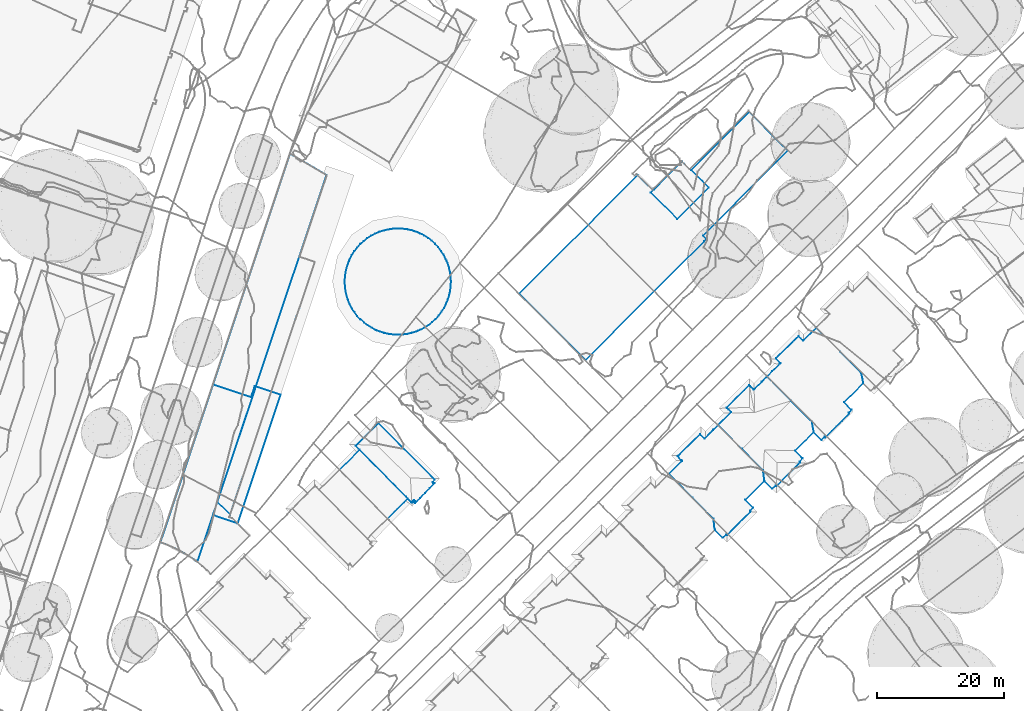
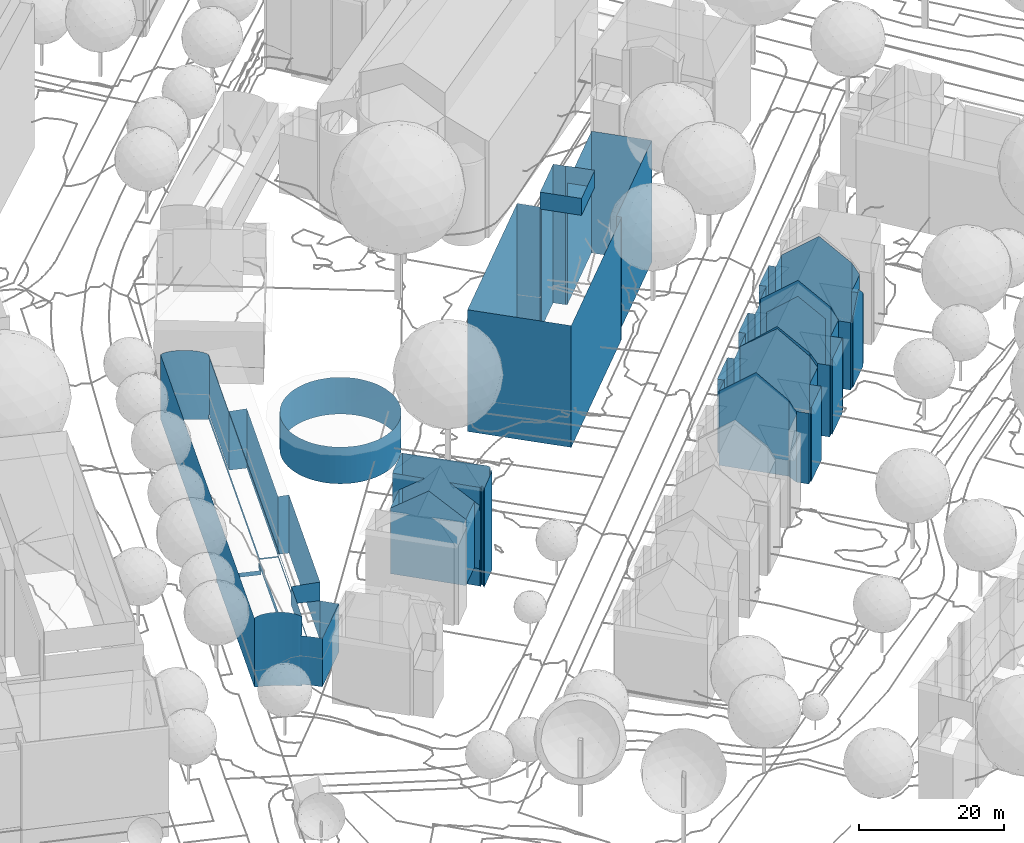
# Not in any storey, part 23 of 494: 7 walls.
"""IFC2X3 model written with IfcOpenShell, lengths in metres."""

from ifc_helpers import new_model, si_unit, frame, origin_with_axes, place, context, subcontext, project, faceted_brep, element, save


model = new_model("IFC2X3")

# Units and contexts
model_context = context("Model", 3, precision=1e-05, world=origin_with_axes())
body_context = subcontext(model_context, "Body", "Model", "MODEL_VIEW")
ifc_project = project(units=[si_unit("AREAUNIT", "SQUARE_METRE"), si_unit("LENGTHUNIT", "METRE")], contexts=[model_context])

# Walls
wall_1_placement = place(None, frame((129.1307320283, 172.8855160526, 527.2133), z_axis=(0.0, 0.0, 1.0), x_axis=(1.0, 0.0, 0.0)))
element("IfcWall", 1, at=wall_1_placement, Name="Wall 0", context=body_context, shape_type="Brep", body=[
    faceted_brep([(26.9079999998, 19.6407000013, 23.3617), (26.9489999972, 19.6816999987, 23.3617), (26.9079999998, 19.6407000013, 0.0), (25.682, 20.875, 23.3617), (25.682, 20.875, 0.0), (20.7619999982, 15.9501999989, 23.3617), (21.2709999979, 16.4589999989, 20.498), (20.7619999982, 15.9501999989, 20.498), (21.2709999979, 16.4589999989, 0.0), (24.9499999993, 11.7657000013, 23.3617), (24.9499999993, 11.7657000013, 20.498), (29.9069999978, 16.7265999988, 23.3617), (29.9069999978, 16.7265999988, 20.498), (26.9489999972, 19.6816999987, 0.0), (27.1359999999, 19.4952000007, 20.498), (27.1359999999, 19.4952000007, 0.0), (21.0179999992, 16.3916999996, 20.498), (21.1789999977, 16.5507999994, 20.498), (21.0179999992, 16.3916999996, 0.0), (18.7049999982, 18.7236999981, 20.498), (18.7049999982, 18.7236999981, 0.0), (0.0, 0.0, 20.498), (0.0, 0.0, 0.0), (10.4670000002, -10.4569999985, 20.498), (10.4670000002, -10.4569999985, 0.0), (29.1589999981, 8.2520000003, 20.498), (29.1589999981, 8.2520000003, 0.0), (29.1419999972, 8.2696000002, 20.498), (29.1419999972, 8.2696000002, 0.0), (29.5369999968, 8.6513999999, 20.498), (29.5369999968, 8.6513999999, 0.0), (29.0059999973, 9.183600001, 20.498), (29.0059999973, 9.183600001, 0.0), (42.3549999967, 22.5430000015, 20.498), (42.3549999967, 22.5430000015, 0.0), (36.2619999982, 28.6290000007, 20.498), (36.2619999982, 28.6290000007, 0.0), (21.1789999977, 16.5507999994, 0.0)], [[[0, 1, 2]], [[3, 0, 4]], [[5, 6, 7]], [[6, 5, 3]], [[6, 4, 8]], [[4, 6, 3]], [[9, 5, 10]], [[11, 9, 12]], [[13, 14, 15]], [[14, 13, 1]], [[14, 11, 12]], [[11, 14, 1]], [[16, 17, 18]], [[19, 16, 20]], [[21, 19, 22]], [[23, 21, 24]], [[25, 23, 26]], [[27, 25, 28]], [[29, 27, 30]], [[31, 29, 32]], [[33, 31, 34]], [[35, 33, 36]], [[14, 35, 15]], [[17, 6, 37]], [[1, 13, 2]], [[0, 2, 4]], [[5, 7, 10]], [[9, 10, 12]], [[17, 37, 18]], [[16, 18, 20]], [[19, 20, 22]], [[21, 22, 24]], [[23, 24, 26]], [[25, 26, 28]], [[27, 28, 30]], [[29, 30, 32]], [[31, 32, 34]], [[33, 34, 36]], [[35, 36, 15]], [[6, 8, 37]]]),
])
wall_2_placement = place(None, frame((168.236732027, 159.8387160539, 531.4768), z_axis=(0.0, 0.0, 1.0), x_axis=(1.0, 0.0, 0.0)))
element("IfcWall", 2, at=wall_2_placement, Name="Wall 0", context=body_context, shape_type="Brep", body=[
    faceted_brep([(12.5319999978, -6.2891000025, 1.9428), (12.1099999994, -6.7080000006, 13.4237), (11.4100000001, -7.4043000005, 0.0), (12.9759999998, -5.8487000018, 0.0), (12.9759999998, -5.8487000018, 12.3158), (13.3440000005, -5.2735000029, 11.7109), (13.1799999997, -5.4356000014, 11.9209), (13.3440000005, -5.2735000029, 0.0), (12.8709999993, -5.7432000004, 0.0), (12.8709999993, -5.7432000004, 12.3158), (12.1510000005, -4.0655000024, 11.7109), (12.1510000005, -4.0655000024, 0.0), (15.1840000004, -1.0703000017, 11.7109), (15.1840000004, -1.0703000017, 0.0), (14.8770000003, 0.5409999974, 12.7678), (14.8770000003, 0.5409999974, 0.0), (9.1860000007, -9.6123000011, 11.9878), (9.0819999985, -9.505900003, 0.0), (9.1860000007, -9.6123000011, 0.0), (9.4199999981, -9.3789000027, 12.2898), (9.4109999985, -9.3877000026, 0.0), (11.2010000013, -7.6114000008, 14.5876), (10.6479999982, -8.1601999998, 13.8747), (10.362999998, -8.443400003, 3.9336), (7.3669999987, -8.7871000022, 0.0), (8.574000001, -10.009800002, 11.3339), (7.3669999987, -8.7871000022, 11.3339), (8.574000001, -10.009800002, 0.0), (9.0819999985, -9.505900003, 11.9888), (7.0720000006, -7.1641000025, 0.0), (7.0720000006, -7.1641000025, 12.7678), (3.7619999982, -3.8115000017, 0.0), (11.5669999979, 3.8954999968, 16.4254), (11.5669999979, 3.8954999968, 0.0), (7.7809999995, 7.7303999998, 12.2278), (7.7809999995, 7.7303999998, 0.0), (5.7540000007, 5.7167999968, 12.2338), (5.7349999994, 5.6981999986, 0.0), (5.688000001, 5.6512999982, 12.3088), (5.7309999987, 5.6942999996, 12.2608), (5.688000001, 5.6512999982, 0.0), (5.2509999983, 6.0907999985, 5.3855), (4.9890000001, 6.3553999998, 12.3108), (4.9710000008, 6.3729999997, 0.0), (1.3990000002, 2.873999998, 0.0), (1.3990000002, 2.873999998, 12.2748), (2.2919999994, 3.748999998, 12.2788), (4.0779999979, 5.4979999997, 12.2868), (4.9710000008, 6.3729999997, 12.2908), (1.4529999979, 2.8192999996, 0.0), (1.4600000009, 2.8125, 12.3448), (2.1400000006, 2.1268999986, 0.0), (2.1400000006, 2.1268999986, 12.3628), (2.0590000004, 2.0458999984, 12.2768), (2.0579999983, 2.0449000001, 0.0), (2.0170000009, 2.0048999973, 0.0), (0.824000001, 0.8192999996, 0.0), (0.8209999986, 0.816399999, 12.2508), (2.0159999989, 2.003899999, 12.2308), (3.7619999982, -3.8115999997, 16.4254), (0.0, 0.0, 12.2538), (0.0, 0.0, 0.0)], [[[0, 1, 2]], [[3, 4, 1]], [[3, 0, 2]], [[5, 6, 7]], [[7, 6, 8]], [[6, 9, 8]], [[10, 7, 11]], [[7, 10, 5]], [[12, 10, 13]], [[14, 12, 15]], [[16, 17, 18]], [[19, 16, 18]], [[20, 19, 18]], [[21, 22, 2]], [[23, 22, 19]], [[20, 23, 19]], [[23, 20, 2]], [[24, 25, 26]], [[24, 27, 25]], [[25, 17, 28]], [[25, 27, 17]], [[26, 29, 24]], [[30, 31, 29]], [[32, 14, 33]], [[34, 33, 35]], [[36, 34, 37]], [[38, 39, 40]], [[41, 38, 40]], [[42, 41, 43]], [[41, 40, 43]], [[44, 45, 46]], [[46, 47, 44]], [[43, 44, 47]], [[43, 47, 48]], [[49, 50, 44]], [[43, 48, 42]], [[50, 51, 52]], [[50, 49, 51]], [[52, 51, 53]], [[53, 51, 54]], [[53, 54, 55]], [[56, 57, 58]], [[53, 55, 58]], [[58, 55, 56]], [[59, 60, 31]], [[57, 56, 61]], [[60, 57, 61]], [[1, 21, 2]], [[1, 0, 3]], [[9, 4, 8]], [[4, 3, 8]], [[10, 11, 13]], [[12, 13, 15]], [[17, 16, 28]], [[22, 23, 2]], [[30, 29, 26]], [[59, 31, 30]], [[14, 15, 33]], [[32, 33, 34]], [[34, 35, 37]], [[40, 39, 36]], [[37, 40, 36]], [[41, 42, 38]], [[45, 44, 50]], [[60, 61, 31]]]),
])
wall_3_placement = place(None, frame((152.792732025, 144.4969160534, 530.4589), z_axis=(0.0, 0.0, 1.0), x_axis=(1.0, 0.0, 0.0)))
element("IfcWall", 3, at=wall_3_placement, Name="Wall 0", context=body_context, shape_type="Brep", body=[
    faceted_brep([(11.4990000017, 3.9199000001, 16.6064), (14.8100000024, 0.5673999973, 12.7558), (11.4990000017, 3.9199000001, 0.0), (2.0360000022, 2.0214999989, 0.0), (2.0360000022, 2.0214999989, 12.4898), (1.9750000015, 2.0830000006, 12.4228), (1.9360000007, 2.1219999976, 12.3788), (1.9040000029, 2.1543000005, 0.0), (0.0, 0.0, 12.4958), (0.0, 0.0, 0.0), (3.7160000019, -3.7655999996, 16.6064), (3.7160000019, -3.7655999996, 0.0), (15.0250000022, -1.134800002, 11.9018), (11.9930000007, -4.1270000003, 0.0), (15.0250000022, -1.134800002, 0.0), (14.8100000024, 0.5673999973, 0.0), (13.2320000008, -5.3819000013, 11.9018), (12.7850000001, -5.8262000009, 0.0), (13.2320000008, -5.3819000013, 0.0), (12.7850000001, -5.8262000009, 12.3778), (11.9930000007, -4.1270000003, 11.9018), (12.7750000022, -6.0459000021, 12.4998), (12.8900000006, -5.9326000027, 0.0), (12.8900000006, -5.9326000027, 12.3778), (9.1120000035, -9.6865000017, 12.4878), (9.0870000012, -9.7109999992, 0.0), (9.3020000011, -9.4970999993, 0.0), (12.7840000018, -6.0371000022, 0.0), (1.4580000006, 2.8759999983, 12.5208), (1.3220000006, 2.7412, 0.0), (1.3220000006, 2.7412, 12.3768), (1.4649999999, 2.8827999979, 0.0), (1.5400000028, 2.5205000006, 12.3768), (5.7410000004, 5.7020999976, 12.4768), (6.9240000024, 6.8779000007, 12.5478), (5.5789999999, 5.5409999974, 0.0), (6.9670000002, 6.9208999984, 0.0), (7.314000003, 7.2655999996, 12.5508), (7.7600000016, 7.7080000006, 0.0), (7.7600000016, 7.7080000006, 12.5548), (7.7060000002, 7.6552999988, 12.5538), (5.006000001, 6.1171999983, 12.6628), (5.5789999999, 5.5409999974, 12.6608), (4.8600000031, 6.2635999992, 0.0), (3.0500000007, 4.4608999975, 12.5138), (7.2149999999, -8.8447999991, 11.9018), (7.0860000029, -8.1914000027, 0.0), (7.2149999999, -8.8447999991, 0.0), (8.9810000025, -9.6044999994, 12.4608), (8.4680000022, -10.1132999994, 11.9018), (8.9810000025, -9.6044999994, 0.0), (9.0870000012, -9.7109999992, 12.4608), (8.4680000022, -10.1132999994, 0.0), (7.0860000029, -8.1914000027, 12.2278), (7.0250000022, -7.1172000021, 0.0), (7.0250000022, -7.1172000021, 12.7558), (4.8600000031, 6.2635999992, 12.5048)], [[[0, 1, 2]], [[3, 4, 5]], [[5, 6, 3]], [[6, 7, 3]], [[8, 4, 9]], [[9, 4, 3]], [[10, 8, 11]], [[12, 13, 14]], [[1, 12, 15]], [[16, 17, 18]], [[16, 19, 17]], [[20, 16, 13]], [[16, 18, 13]], [[21, 22, 23]], [[23, 22, 19]], [[19, 22, 17]], [[24, 25, 26]], [[21, 24, 27]], [[28, 29, 30]], [[28, 31, 29]], [[6, 32, 7]], [[30, 29, 32]], [[33, 34, 35]], [[36, 34, 37]], [[36, 37, 38]], [[2, 39, 0]], [[40, 39, 38]], [[41, 42, 43]], [[42, 35, 43]], [[31, 28, 44]], [[43, 31, 44]], [[45, 46, 47]], [[48, 49, 50]], [[25, 51, 50]], [[25, 24, 51]], [[49, 47, 52]], [[47, 49, 45]], [[53, 54, 46]], [[55, 11, 54]], [[1, 15, 2]], [[8, 9, 11]], [[20, 13, 12]], [[12, 14, 15]], [[22, 21, 27]], [[24, 26, 27]], [[7, 32, 29]], [[34, 36, 35]], [[38, 39, 2]], [[37, 40, 38]], [[33, 35, 42]], [[41, 43, 56]], [[56, 43, 44]], [[53, 46, 45]], [[49, 52, 50]], [[48, 50, 51]], [[55, 54, 53]], [[10, 11, 55]]]),
])
wall_4_placement = place(None, frame((101.6207320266, 174.7557160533, 529.8231), z_axis=(0.0, 0.0, 1.0), x_axis=(1.0, 0.0, 0.0)))
element("IfcWall", 4, at=wall_4_placement, Name="Wall 0", context=body_context, shape_type="Brep", body=[
    faceted_brep([(8.3520000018, 8.4131000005, 0.0), (8.3530000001, 8.4131000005, 6.2124), (8.3720000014, 8.4120999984, 6.2124), (7.625, 8.378899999, 0.0), (7.625, 8.378899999, 6.1974), (6.8999999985, 8.2811999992, 6.1904), (6.8999999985, 8.2811999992, 0.0), (6.1860000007, 8.1210999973, 0.0), (6.1860000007, 8.1210999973, 6.1934), (5.4890000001, 7.8993999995, 6.2044), (5.4890000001, 7.8993999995, 0.0), (5.2030000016, 7.7802000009, 6.2134), (11.2129999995, 7.9188999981, 0.0), (11.2120000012, 7.9188999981, 6.2034), (11.5469999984, 7.7821999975, 6.2124), (10.5159999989, 8.1356999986, 6.1924), (10.5159999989, 8.1356999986, 0.0), (9.8040000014, 8.2909999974, 0.0), (9.8040000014, 8.2909999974, 6.1904), (9.0810000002, 8.3827999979, 6.1974), (9.0810000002, 8.3827999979, 0.0), (14.2670000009, 5.9921999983, -0.0001), (13.7300000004, 6.4794999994, -0.0001), (13.7300000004, 6.4794999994, 6.1944), (14.2540000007, 6.003899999, 6.2094), (13.1499999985, 6.9199000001, -0.0001), (13.1499999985, 6.9199000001, 6.1884), (12.5340000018, 7.3085999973, 6.1914), (12.5340000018, 7.3085999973, 0.0), (11.8859999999, 7.6424999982, 6.2024), (11.8859999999, 7.6424999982, 0.0), (15.9459999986, 3.6210999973, 6.1973), (16.0749999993, 3.3143999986, 6.2063), (16.0769999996, 3.3085999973, -0.0001), (15.9459999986, 3.6210999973, -0.0001), (15.6059999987, 4.2655999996, -0.0001), (15.6059999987, 4.2655999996, 6.1874), (15.2109999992, 4.8779000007, 6.1854), (15.2109999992, 4.8779000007, -0.0001), (14.7650000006, 5.4540999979, -0.0001), (14.7650000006, 5.4540999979, 6.1924), (14.2699999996, 5.9891999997, 6.2084), (16.6130000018, 1.5449000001, 6.1813), (16.6130000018, 1.5449000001, -0.0001), (16.4519999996, 2.2547999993, -0.0001), (16.2280000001, 2.9492000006, -0.0001), (16.4519999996, 2.2547999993, 6.1833), (16.7129999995, 0.8231999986, -0.0001), (16.7329999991, 0.4188999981, 6.1953), (16.75, 0.0887999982, -0.0001), (16.7129999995, 0.8231999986, 6.1873), (16.7479999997, 0.125, 6.2013), (16.2630000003, -2.7774000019, 6.1883), (15.9880000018, -3.4550999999, -0.0001), (16.2630000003, -2.7774000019, -0.0001), (16.4789999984, -2.0782000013, -0.0001), (16.4789999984, -2.0782000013, 6.1783), (16.6319999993, -1.3643000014, -0.0001), (16.7230000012, -0.6377000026, 6.1833), (16.6319999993, -1.3643000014, 6.1763), (16.7230000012, -0.6377000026, -0.0001), (14.824000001, -5.3067000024, -0.0001), (14.824000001, -5.3067000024, 6.1773), (14.3410000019, -5.8418000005, 6.1923), (14.3339999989, -5.8496000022, -0.0001), (15.2659999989, -4.7237000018, -0.0001), (15.2659999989, -4.7237000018, 6.1713), (15.6550000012, -4.1044999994, -0.0001), (15.9880000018, -3.4550999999, 6.1863), (11.9600000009, -7.5342000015, -0.0001), (11.9600000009, -7.5342000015, 6.1803), (11.6020000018, -7.6845999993, -0.0001), (11.6079999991, -7.6817000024, 6.1903), (12.6059999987, -7.192400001, -0.0001), (13.2199999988, -6.7959000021, -0.0001), (13.2199999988, -6.7959000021, 6.1683), (13.7980000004, -6.3467000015, 6.1763), (13.7980000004, -6.3467000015, -0.0001), (14.3341000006, -5.8496000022, 6.1923), (9.1530000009, -8.3037, -0.0001), (9.8770000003, -8.2041000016, 6.1663), (9.1530000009, -8.3037, 6.1723), (10.5899999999, -8.0419999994, 6.1693), (10.5899999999, -8.0419999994, -0.0001), (9.8770000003, -8.2041000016, -0.0001), (11.2859999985, -7.8183999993, 6.1813), (8.4219999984, -8.3399000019, 6.1873), (8.379999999, -8.3379000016, 6.1883), (8.4250000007, -8.3399000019, -0.0001), (5.1420000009, -7.683600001, -0.0001), (5.5529999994, -7.8506000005, -0.0001), (5.5529999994, -7.8506000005, 6.1793), (6.2509999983, -8.067400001, 6.1683), (6.2509999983, -8.067400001, -0.0001), (6.9660000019, -8.2206999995, 6.1663), (6.9660000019, -8.2206999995, -0.0001), (7.6920000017, -8.3125, -0.0001), (7.6920000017, -8.3125, 6.1743), (8.0980000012, -8.3282000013, 6.1823), (4.8759999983, -7.5752000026, 6.1823), (4.2250000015, -7.2412, -0.0001), (4.8759999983, -7.5752000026, -0.0001), (4.2250000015, -7.2412, 6.1714), (5.1400000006, -7.6827000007, 6.1903), (2.4829999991, -5.9189999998, -0.0001), (2.4820000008, -5.9180000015, 6.1894), (2.4100000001, -5.8399000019, 6.1924), (3.0240000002, -6.4101999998, 6.1744), (3.0240000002, -6.4101999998, -0.0001), (3.6070000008, -6.8516000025, -0.0001), (3.6070000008, -6.8516000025, 6.1684), (0.800999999, -3.5401000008, 6.1844), (0.6119999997, -3.0899000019, 6.1974), (0.5179999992, -2.8662, 0.0), (0.800999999, -3.5401000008, -0.0001), (1.1420000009, -4.1875, 6.1734), (1.1420000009, -4.1875, -0.0001), (1.5370000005, -4.8027999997, -0.0001), (1.9849999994, -5.3808999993, -0.0001), (1.9849999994, -5.3808999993, 6.1794), (0.2950000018, -2.1689999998, 6.1794), (0.2950000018, -2.1689999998, 0.0), (0.5179999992, -2.8662, 6.1904), (0.0350000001, -0.7314999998, 0.0), (0.0350000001, -0.7314999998, 6.1824), (0.0, 0.0, 6.1974), (0.0, 0.0, 0.0), (0.1330000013, -1.4550999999, 0.0), (0.1330000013, -1.4550999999, 6.1764), (0.0289999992, 0.7313999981, 6.1884), (0.0289999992, 0.7313999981, 0.0), (0.493999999, 2.870099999, 0.0), (0.675999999, 3.3143999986, 6.2064), (0.6750000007, 3.311499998, 0.0), (0.2769999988, 2.1717999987, 0.0), (0.2769999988, 2.1717999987, 6.1834), (0.493999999, 2.870099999, 6.1934), (0.1220000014, 1.4569999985, 0.0), (0.1220000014, 1.4569999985, 6.1814), (4.1660000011, 7.2773000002, 6.1914), (4.1660000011, 7.2773000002, 0.0), (3.5500000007, 6.8817999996, 6.1894), (3.5500000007, 6.8817999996, 0.0), (2.9719999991, 6.4344999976, 6.1964), (2.9719999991, 6.4344999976, 0.0), (2.4349999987, 5.9404000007, 0.0), (2.4340000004, 5.9393999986, 6.2064), (2.5020000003, 6.0018999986, 6.2094), (4.8139999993, 7.6171999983, 0.0), (4.8139999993, 7.6171999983, 6.2014), (1.4979999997, 4.816399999, 0.0), (1.1070000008, 4.1972000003, 0.0), (1.1070000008, 4.1972000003, 6.1884), (1.4979999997, 4.816399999, 6.1854), (0.7719999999, 3.5467999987, 0.0), (0.7719999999, 3.5467999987, 6.1994), (1.9409999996, 5.3983999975, 0.0), (16.2280000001, 2.9492000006, 6.1953), (16.75, 0.0927000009, 6.1993), (15.6550000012, -4.1044999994, 6.1743), (16.1359999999, -3.0899000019, 6.1973), (12.6059999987, -7.192400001, 6.1703), (11.2859999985, -7.8183999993, -0.0001), (1.5370000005, -4.8027999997, 6.1724), (0.004999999, 0.125, 6.2014), (1.9409999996, 5.3983999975, 6.1914)], [[[0, 1, 2]], [[3, 4, 0]], [[0, 4, 1]], [[3, 5, 4]], [[6, 5, 3]], [[7, 8, 6]], [[8, 5, 6]], [[9, 8, 10]], [[8, 7, 10]], [[9, 10, 11]], [[12, 13, 14]], [[15, 13, 16]], [[13, 12, 16]], [[16, 17, 18]], [[19, 17, 20]], [[19, 20, 0]], [[21, 22, 23]], [[24, 21, 23]], [[25, 26, 23]], [[23, 22, 25]], [[27, 25, 28]], [[27, 28, 29]], [[29, 28, 30]], [[12, 14, 30]], [[31, 32, 33]], [[31, 33, 34]], [[35, 36, 34]], [[34, 36, 31]], [[37, 35, 38]], [[37, 39, 40]], [[37, 38, 39]], [[41, 40, 21]], [[40, 39, 21]], [[24, 41, 21]], [[42, 43, 44]], [[45, 46, 44]], [[47, 48, 49]], [[47, 50, 48]], [[48, 51, 49]], [[43, 42, 47]], [[50, 47, 42]], [[52, 53, 54]], [[55, 56, 54]], [[56, 52, 54]], [[56, 55, 57]], [[58, 59, 60]], [[59, 57, 60]], [[49, 58, 60]], [[61, 62, 63]], [[63, 64, 61]], [[65, 66, 62]], [[62, 61, 65]], [[67, 66, 65]], [[53, 52, 68]], [[69, 70, 71]], [[71, 70, 72]], [[73, 70, 69]], [[73, 74, 75]], [[76, 74, 77]], [[64, 76, 77]], [[78, 64, 63]], [[79, 80, 81]], [[82, 80, 83]], [[83, 80, 84]], [[85, 82, 83]], [[72, 85, 71]], [[86, 87, 88]], [[81, 86, 79]], [[86, 88, 79]], [[89, 90, 91]], [[91, 90, 92]], [[92, 90, 93]], [[94, 92, 93]], [[94, 93, 95]], [[96, 97, 94]], [[87, 98, 88]], [[97, 96, 98]], [[98, 96, 88]], [[99, 100, 101]], [[99, 102, 100]], [[103, 99, 89]], [[99, 101, 89]], [[104, 105, 106]], [[105, 104, 107]], [[108, 107, 104]], [[108, 109, 110]], [[110, 107, 108]], [[102, 110, 100]], [[111, 112, 113]], [[111, 113, 114]], [[115, 114, 116]], [[115, 116, 117]], [[104, 106, 118]], [[106, 119, 118]], [[120, 121, 113]], [[122, 113, 112]], [[123, 124, 125]], [[123, 125, 126]], [[127, 128, 123]], [[123, 128, 124]], [[120, 127, 121]], [[126, 125, 129]], [[129, 130, 126]], [[131, 132, 133]], [[134, 135, 131]], [[131, 135, 136]], [[134, 137, 138]], [[138, 130, 129]], [[139, 140, 141]], [[142, 141, 140]], [[143, 141, 144]], [[144, 141, 142]], [[145, 146, 147]], [[143, 145, 147]], [[143, 144, 145]], [[148, 149, 10]], [[149, 140, 139]], [[149, 148, 140]], [[150, 151, 152]], [[153, 150, 152]], [[154, 152, 151]], [[155, 154, 133]], [[153, 156, 150]], [[15, 16, 18]], [[18, 17, 19]], [[0, 2, 19]], [[27, 26, 25]], [[29, 30, 14]], [[36, 35, 37]], [[42, 44, 46]], [[45, 157, 46]], [[33, 32, 157]], [[157, 45, 33]], [[51, 158, 49]], [[56, 57, 59]], [[49, 158, 58]], [[67, 159, 66]], [[68, 67, 53]], [[159, 67, 68]], [[160, 68, 52]], [[73, 161, 70]], [[161, 73, 75]], [[75, 74, 76]], [[76, 64, 78]], [[84, 80, 79]], [[162, 85, 83]], [[71, 85, 162]], [[103, 89, 91]], [[94, 95, 96]], [[110, 109, 100]], [[114, 115, 111]], [[163, 115, 117]], [[117, 119, 163]], [[119, 117, 118]], [[120, 113, 122]], [[128, 127, 120]], [[164, 129, 125]], [[131, 136, 132]], [[155, 133, 132]], [[134, 138, 135]], [[138, 137, 130]], [[149, 11, 10]], [[155, 152, 154]], [[146, 145, 165]], [[156, 165, 145]], [[165, 156, 153]]]),
])
wall_5_placement = place(None, frame((100.8207320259, 145.1316160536, 530.024), z_axis=(0.0, 0.0, 1.0), x_axis=(1.0, 0.0, 0.0)))
element("IfcWall", 5, at=wall_5_placement, Name="Wall 0", context=body_context, shape_type="Brep", body=[
    faceted_brep([(0.0, 0.0, 8.3352), (0.0, 0.0, 11.0409), (3.1640000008, 3.1338, 11.0809), (3.1640000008, 3.1338, 0.0), (0.0, 0.0, 0.0), (11.2789999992, -5.1103000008, 10.594), (10.7360000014, -4.5604999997, 11.1429), (11.2789999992, -5.1103000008, 7.8082), (10.7360000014, -4.5604999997, 0.0), (8.800999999, -6.4775000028, 0.0), (9.1510000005, -6.1308000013, 11.1639), (7.5650000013, -7.701100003, 11.1839), (7.5650000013, -7.701100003, 4.0236), (7.5650000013, -7.701100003, 0.0), (11.3680000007, -5.201100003, 13.6147), (11.2809999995, -5.1084000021, 13.6187), (11.2809999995, -5.1084000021, 10.594), (11.2789999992, -5.1103000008, 5.0225), (11.3680000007, -5.201100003, -2.9817), (11.2809999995, -5.1084000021, 0.0), (11.2809999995, -5.1084000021, -0.7379), (11.2809999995, -5.1084000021, -2.9787), (11.8420000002, -5.1963, -3.1977), (11.8420000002, -5.196200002, 13.3987), (11.8720000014, -4.9550000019, 13.4937), (11.8720000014, -4.9550000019, -3.1027), (11.9090000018, -5.2627000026, -3.2587), (14.2270000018, -2.8916000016, -3.2517), (13.4570000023, -3.6796000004, 13.3417), (13.4570000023, -3.6796000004, -3.2547), (12.6860000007, -4.4687000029, 13.3397), (12.6860000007, -4.4687000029, -3.2567), (15.0, -2.1015000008, 13.3467), (14.2270000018, -2.8916000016, 13.3447), (15.0, -2.1015000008, -3.2497), (11.9090000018, -5.2627000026, 13.3377), (11.3920000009, -5.1796000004, 13.6127), (11.3920000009, -5.1796000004, -2.9837), (11.6590000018, -4.9121000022, -2.9847), (11.6559999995, -4.9160000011, 13.6117), (11.5780000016, -4.9931000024, 13.6117), (11.745000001, -4.8271000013, 13.6107), (11.745000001, -4.8271000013, -2.9857), (11.4800000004, -5.0908000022, 13.6127), (11.4800000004, -5.0908000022, 1.1669), (14.7589999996, -2.1103000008, -3.1427), (14.625, -1.9746000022, 13.5747), (14.7589999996, -2.1103000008, 13.4537), (15.0160000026, -1.5877999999, 9.4211), (14.625, -1.9746000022, -3.0217), (15.0160000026, -1.5877999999, 1.1229), (15.0160000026, -1.5879000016, -3.0267), (11.2880000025, -5.1005000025, -2.9707), (11.2910000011, -5.0976000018, -0.7399), (11.2789999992, -5.1103000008, 0.0), (11.2950000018, -5.0927000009, -2.9637), (11.3000000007, -5.0868999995, 0.0), (11.2880000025, -5.0996000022, 11.3689), (11.3000000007, -5.0868999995, 13.6377), (11.3000000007, -5.0868999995, 12.8767), (11.2930000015, -5.0947000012, 13.6307), (11.2950000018, -5.0927000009, 11.3499), (11.3000000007, -5.0877999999, 10.594), (11.3000000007, -5.0868999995, 12.1148), (3.8530000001, -3.9218000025, 14.9536), (3.8530000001, -3.9218000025, 0.0), (6.1550000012, 7.3632999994, 13.6857), (14.7740000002, -1.3427000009, 13.7907), (6.1550000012, 7.3632999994, -2.9107), (15.0160000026, -1.5877999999, 13.5697), (14.7740000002, -1.3427000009, -2.8057), (2.5309999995, 3.7744999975, 13.7577), (5.8210000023, 7.0322999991, 13.9947), (2.5309999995, 3.7744999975, -2.8387), (2.7329999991, 3.9736999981, 13.9587), (5.8210000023, 7.0322999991, -2.6017), (2.7329999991, 3.9736999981, -2.6377), (10.4810000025, -4.258700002, 11.4239), (8.25, -2.004800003, 13.6797), (10.4810000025, -4.258700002, 13.6497), (2.6960000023, 3.6064999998, -2.8407), (10.4810000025, -4.258700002, 0.0), (11.3000000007, -5.0868999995, -2.9587), (10.4810000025, -4.258700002, -2.9467), (5.7660000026, 0.5048999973, 13.7137), (2.6830000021, 3.620199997, 13.7557), (11.5329999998, -5.0390000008, -2.9837)], [[[0, 1, 2]], [[0, 3, 4]], [[5, 6, 7]], [[8, 6, 9]], [[9, 10, 11]], [[11, 12, 9]], [[13, 9, 12]], [[14, 15, 16]], [[14, 17, 18]], [[7, 14, 16]], [[17, 19, 18]], [[20, 21, 18]], [[19, 20, 18]], [[22, 23, 24]], [[24, 25, 22]], [[23, 22, 26]], [[27, 28, 29]], [[28, 30, 31]], [[32, 33, 34]], [[27, 34, 33]], [[30, 35, 31]], [[36, 18, 37]], [[18, 36, 14]], [[38, 39, 40]], [[41, 39, 42]], [[43, 36, 44]], [[37, 44, 36]], [[45, 46, 47]], [[48, 49, 50]], [[50, 49, 51]], [[52, 20, 53]], [[53, 20, 54]], [[55, 53, 56]], [[54, 19, 53]], [[19, 56, 53]], [[57, 16, 15]], [[58, 59, 60]], [[57, 61, 62]], [[63, 62, 61]], [[57, 62, 16]], [[11, 64, 12]], [[12, 64, 1]], [[65, 12, 0]], [[0, 4, 65]], [[13, 12, 65]], [[0, 12, 1]], [[42, 24, 41]], [[24, 42, 25]], [[34, 47, 32]], [[47, 34, 45]], [[66, 67, 48]], [[50, 68, 66]], [[48, 67, 69]], [[50, 66, 48]], [[50, 51, 70]], [[70, 68, 50]], [[71, 72, 73]], [[71, 74, 72]], [[72, 66, 73]], [[68, 75, 66]], [[76, 73, 66]], [[75, 76, 66]], [[62, 63, 77]], [[63, 59, 78]], [[78, 59, 79]], [[77, 63, 78]], [[79, 59, 58]], [[80, 81, 3]], [[82, 56, 83]], [[81, 83, 56]], [[83, 81, 80]], [[2, 84, 85]], [[85, 71, 2]], [[80, 3, 73]], [[3, 71, 73]], [[3, 2, 71]], [[2, 3, 0]], [[17, 7, 6]], [[6, 54, 17]], [[6, 8, 54]], [[10, 9, 6]], [[7, 17, 14]], [[23, 26, 35]], [[33, 28, 27]], [[28, 31, 29]], [[35, 26, 31]], [[40, 43, 44]], [[39, 38, 42]], [[40, 86, 38]], [[44, 86, 40]], [[86, 44, 37]], [[49, 46, 45]], [[46, 48, 69]], [[46, 49, 48]], [[21, 20, 52]], [[52, 53, 55]], [[55, 56, 82]], [[15, 60, 57]], [[57, 60, 61]], [[59, 63, 60]], [[61, 60, 63]], [[16, 5, 7]], [[19, 20, 54]], [[17, 54, 19]]]),
])
wall_6_placement = place(None, frame((72.548732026, 133.6649160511, 527.8002), z_axis=(0.0, 0.0, 1.0), x_axis=(1.0, 0.0, 0.0)))
element("IfcWall", 6, at=wall_6_placement, Name="Wall 0", context=body_context, shape_type="Brep", body=[
    faceted_brep([(5.8420000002, -3.0156999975, 8.4512), (5.8420000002, -3.0156999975, 11.6169), (5.6130000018, -2.8974999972, 8.4512), (5.8420000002, -3.0156999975, 0.0), (5.8420000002, -3.0156999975, 0.279), (5.6130000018, -2.8974999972, 0.279), (5.5399999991, -2.8594000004, 11.8599), (5.5399999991, -2.8594000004, 0.0), (5.4290000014, -2.807699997, 0.0), (0.1180000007, -0.0615999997, 11.7119), (0.0, 0.0, 11.6169), (0.1180000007, -0.0615999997, 0.0), (6.5650000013, -3.7099999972, 8.4512), (5.8310000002, -3.1142999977, 8.4512), (6.5650000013, -3.7099999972, 0.279), (7.2679999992, -4.3409000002, 8.4512), (7.2679999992, -4.3409000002, 0.279), (7.9409999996, -5.0048999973, 8.4512), (7.9409999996, -5.0048999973, 0.279), (14.0480000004, 1.0478000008, 8.4512), (14.0480000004, 1.0478000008, 0.279), (8.9759999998, 6.3779000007, 1.2579), (11.001000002, 4.3583000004, 0.279), (8.9759999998, 6.3779000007, 0.279), (5.8310000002, -3.1142999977, 0.279), (14.8660000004, 24.6484000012, 0.738), (15.0529999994, 24.5868999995, 0.738), (14.8660000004, 24.6484000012, 0.0), (14.2789999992, 22.8935000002, 0.738), (14.2789999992, 22.8935000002, 0.0), (21.938000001, 45.0312000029, 11.412), (24.3370000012, 44.2285000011, 1.4999), (21.938000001, 45.0312000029, 1.4999), (26.2369999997, 57.8828000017, 11.413), (26.2369999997, 57.8828000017, 1.4999), (15.0529999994, 24.5868999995, 1.4999), (17.493999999, 23.7705000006, 1.4999), (15.0529999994, 24.5868999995, 1.2579), (17.493999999, 23.7705000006, 11.5229), (18.9510000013, 23.2840999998, 1.7849), (17.493999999, 23.7705000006, 1.7849), (12.1779999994, 2.9873000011, 11.5899), (12.1469999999, 2.9970000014, 8.4512), (12.1779999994, 2.9873000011, 1.7848), (12.1469999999, 2.9970000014, 11.5889), (18.9510000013, 23.2840999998, 11.5899), (12.069000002, 3.0751000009, 1.2579), (12.069000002, 3.0751000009, 1.7848), (12.1469999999, 2.9970000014, 1.7848), (12.0700000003, 3.076100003, 0.279), (11.3200000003, 3.7939000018, 1.7848), (11.3200000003, 3.7939000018, 0.279), (10.8630000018, 3.946200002, 1.7849), (10.8630000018, 3.946200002, 0.279), (8.2789999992, 4.2890000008, 11.4099), (4.6420000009, -2.2696000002, 12.1849), (3.8350000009, -1.7656999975, 0.0), (4.6420000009, -2.2696000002, 0.0), (4.4739999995, -2.1640999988, 12.2288), (3.8339999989, -1.7636999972, 12.3198), (5.4290000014, -2.807699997, 11.9069), (5.0749999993, -2.5654999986, 12.0689), (3.0020000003, -1.2978999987, 0.0), (3.7659999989, -1.7265999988, 12.3298), (3.0020000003, -1.2978999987, 12.3638), (26.175999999, 57.9189000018, 0.738), (26.175999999, 57.9189000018, 1.4999), (15.0529999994, 24.5868999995, 0.0), (2.004999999, -0.807699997, 0.0), (2.004999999, -0.807699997, 12.3028), (1.4600000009, -0.5751999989, 12.2289), (0.9810000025, -0.3720999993, 12.1099), (1.4600000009, -0.5751999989, 0.0), (0.9810000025, -0.3720999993, 0.0), (2.2039999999, -0.9052999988, 12.3298), (0.3110000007, -0.1298999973, 11.8599), (0.8139999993, -0.3125, 12.0689), (0.3110000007, -0.1298999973, 0.0), (0.8139999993, -0.3125, 0.0), (0.0, 0.0, 0.0), (8.3060000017, 24.8905999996, 0.738), (8.3060000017, 24.8905999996, 11.6169), (20.4539999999, 61.2920000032, 0.738), (8.3060000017, 24.8905999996, 0.0), (26.175999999, 57.9189000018, 11.6171), (15.0529999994, 24.5868999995, 11.617), (26.175999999, 57.9189000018, 11.4101), (15.0529999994, 24.5868999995, 11.4101), (8.2789999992, 4.2890000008, 8.4512), (24.3370000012, 44.2285000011, 11.523), (11.001000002, 4.3583000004, 1.2579), (17.493999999, 23.7705000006, 1.2579), (20.4539999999, 61.2919000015, 11.617), (20.7479999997, 61.1210000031, 11.8599), (21.2210000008, 60.8418000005, 12.0689), (21.8350000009, 60.4794000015, 12.2289), (22.5490000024, 60.0585000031, 12.3299), (23.3150000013, 59.6064000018, 12.3639), (22.5040000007, 60.0859000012, 0.738), (20.7420000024, 61.1240000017, 0.738), (24.131000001, 59.125, 0.738), (24.0820000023, 59.1543000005, 12.3299), (24.7960000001, 58.7324000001, 12.2289), (25.4100000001, 58.3710000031, 12.0689), (25.881000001, 58.0927000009, 11.8599)], [[[0, 1, 2]], [[3, 4, 5]], [[2, 6, 7]], [[6, 2, 1]], [[5, 7, 3]], [[7, 5, 2]], [[6, 8, 7]], [[9, 10, 11]], [[12, 13, 14]], [[15, 12, 16]], [[17, 15, 18]], [[19, 17, 20]], [[21, 22, 23]], [[13, 2, 24]], [[25, 26, 27]], [[28, 25, 29]], [[30, 31, 32]], [[33, 30, 34]], [[35, 36, 37]], [[38, 39, 40]], [[41, 42, 43]], [[44, 42, 41]], [[45, 41, 39]], [[46, 47, 48]], [[49, 46, 48]], [[42, 19, 48]], [[48, 20, 49]], [[20, 48, 19]], [[50, 46, 51]], [[52, 50, 53]], [[44, 54, 42]], [[55, 56, 57]], [[58, 59, 56]], [[58, 56, 55]], [[8, 60, 57]], [[61, 55, 57]], [[61, 57, 60]], [[56, 59, 62]], [[63, 64, 62]], [[63, 62, 59]], [[37, 65, 66]], [[37, 26, 65]], [[67, 26, 23]], [[66, 35, 37]], [[21, 23, 26]], [[23, 4, 3]], [[23, 3, 67]], [[21, 26, 37]], [[68, 69, 70]], [[68, 70, 71]], [[72, 68, 71]], [[73, 72, 71]], [[62, 64, 74]], [[68, 62, 69]], [[69, 62, 74]], [[75, 9, 76]], [[71, 76, 9]], [[9, 73, 71]], [[77, 78, 9]], [[78, 73, 9]], [[77, 9, 11]], [[79, 10, 80]], [[80, 10, 81]], [[80, 81, 82]], [[80, 83, 79]], [[83, 80, 29]], [[29, 80, 28]], [[84, 85, 86]], [[87, 86, 85]], [[85, 54, 87]], [[54, 1, 0]], [[1, 54, 85]], [[0, 88, 54]], [[40, 89, 38]], [[31, 40, 36]], [[36, 40, 90]], [[90, 91, 36]], [[52, 53, 90]], [[90, 40, 52]], [[92, 93, 94]], [[92, 94, 95]], [[96, 97, 92]], [[96, 92, 95]], [[86, 98, 92]], [[92, 99, 82]], [[99, 92, 98]], [[100, 98, 66]], [[86, 92, 97]], [[86, 101, 102]], [[86, 102, 103]], [[104, 84, 86]], [[104, 86, 103]], [[86, 66, 98]], [[65, 100, 66]], [[86, 34, 66]], [[33, 34, 86]], [[97, 101, 86]], [[60, 8, 6]], [[10, 79, 11]], [[13, 24, 14]], [[12, 14, 16]], [[15, 16, 18]], [[17, 18, 20]], [[90, 22, 21]], [[2, 5, 24]], [[26, 67, 27]], [[25, 27, 29]], [[89, 31, 30]], [[30, 32, 34]], [[36, 91, 37]], [[45, 39, 38]], [[42, 48, 43]], [[41, 43, 39]], [[47, 46, 50]], [[46, 49, 51]], [[50, 51, 53]], [[54, 88, 42]], [[81, 92, 82]], [[31, 89, 40]], [[53, 22, 90]]]),
])
wall_7_placement = place(None, frame((160.5527320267, 152.2049160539, 530.9679), z_axis=(0.0, 0.0, 1.0), x_axis=(1.0, 0.0, 0.0)))
element("IfcWall", 7, at=wall_7_placement, Name="Wall 0", context=body_context, shape_type="Brep", body=[
    faceted_brep([(2.8819999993, 4.2949000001, 0.0), (1.3299999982, 2.7528999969, 0.0), (2.2170000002, 3.6338, 12.2568), (4.8770000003, 6.2773000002, 0.0), (4.8770000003, 6.2773000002, 12.2428), (5.0379999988, 6.1162, 0.0), (5.0179999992, 6.1356999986, 12.2408), (2.0450000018, 2.0331999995, 12.3708), (1.6440000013, 2.436499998, 12.3698), (2.0450000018, 2.0331999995, 0.0), (1.6429999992, 2.4375, 0.0), (0.8390000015, 0.8339999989, 12.1298), (1.8949999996, 1.8838, 12.1998), (1.4189999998, 2.6630999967, 12.3728), (1.3940000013, 2.6875, 0.0), (3.7390000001, -3.7881000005, 16.4764), (0.0, 0.0, 0.0), (3.7390000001, -3.7881000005, 0.0), (0.0, 0.0, 12.0918), (6.8669999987, 6.8231999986, 0.0), (7.1860000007, 7.1395999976, 12.1688), (7.381000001, 7.3339999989, 3.0237), (7.6840000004, 7.6338, 12.1478), (7.6840000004, 7.6338, 0.0), (11.4459999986, 3.8222000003, 16.4764), (11.4459999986, 3.8222000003, 0.0), (5.5929999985, 5.556599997, 0.0), (6.2679999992, 6.2274999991, 12.1838), (6.5670000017, 6.5243999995, 6.0894), (5.6350000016, 5.5986000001, 12.1858), (6.8790000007, 6.8348999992, 12.1818), (5.5929999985, 5.556599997, 12.2388), (5.1900000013, 5.9628999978, 12.2398), (7.0500000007, -7.1406000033, 12.8437), (7.0500000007, -7.1406000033, -0.0001), (14.756000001, 0.4696999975, 12.8437), (15.050999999, -1.1533000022, 12.0618), (14.756000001, 0.4696999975, -0.0001), (12.1099999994, -4.058600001, 12.0618), (15.050999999, -1.1533000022, -0.0001), (7.2650000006, -8.8428000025, 12.0618), (7.2650000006, -8.8428000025, -0.0001), (12.8539999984, -5.9678000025, 12.6297), (12.9010000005, -5.9219000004, -0.0001), (12.9010000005, -5.9219000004, 12.5837), (12.7960000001, -5.8164000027, -0.0001), (13.3260000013, -5.2901000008, 12.0618), (12.7960000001, -5.8164000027, 12.5837), (13.3260000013, -5.2901000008, -0.0001), (12.1099999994, -4.058600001, -0.0001), (8.493999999, -10.0879000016, 12.0618), (8.493999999, -10.0879000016, -0.0001), (9.006000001, -9.5800999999, -0.0001), (9.006000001, -9.5800999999, 12.5587), (9.1110000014, -9.6865000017, -0.0001), (9.1110000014, -9.6865000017, 12.5587), (9.1739999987, -9.6240000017, 12.6197), (9.1739999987, -9.6240000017, -0.0001), (11.8859999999, -6.9307000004, 12.6277), (11.5379999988, -7.2754000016, -0.0001), (1.3299999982, 2.7528999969, 12.2618)], [[[0, 1, 2]], [[2, 3, 0]], [[4, 3, 2]], [[5, 4, 6]], [[7, 8, 9]], [[8, 10, 9]], [[11, 12, 9]], [[10, 8, 13]], [[13, 14, 10]], [[15, 16, 17]], [[18, 16, 15]], [[11, 9, 16]], [[19, 20, 21]], [[22, 23, 21]], [[21, 23, 19]], [[23, 22, 24]], [[25, 23, 24]], [[26, 27, 28]], [[26, 28, 19]], [[26, 29, 27]], [[27, 30, 28]], [[26, 31, 29]], [[26, 6, 32]], [[33, 17, 34]], [[24, 35, 25]], [[35, 36, 37]], [[36, 38, 39]], [[40, 34, 41]], [[42, 43, 44]], [[45, 44, 43]], [[46, 47, 48]], [[47, 45, 48]], [[38, 46, 49]], [[46, 48, 49]], [[50, 51, 52]], [[53, 52, 54]], [[55, 54, 56]], [[56, 54, 57]], [[41, 50, 40]], [[41, 51, 50]], [[43, 42, 58]], [[58, 59, 43]], [[56, 57, 59]], [[1, 60, 2]], [[13, 60, 14]], [[60, 1, 14]], [[3, 4, 5]], [[7, 9, 12]], [[16, 18, 11]], [[20, 22, 21]], [[19, 30, 20]], [[30, 19, 28]], [[32, 31, 26]], [[5, 6, 26]], [[15, 17, 33]], [[35, 37, 25]], [[36, 39, 37]], [[38, 49, 39]], [[33, 34, 40]], [[45, 47, 44]], [[53, 50, 52]], [[55, 53, 54]], [[58, 56, 59]]]),
])

save(model, "model.ifc")
